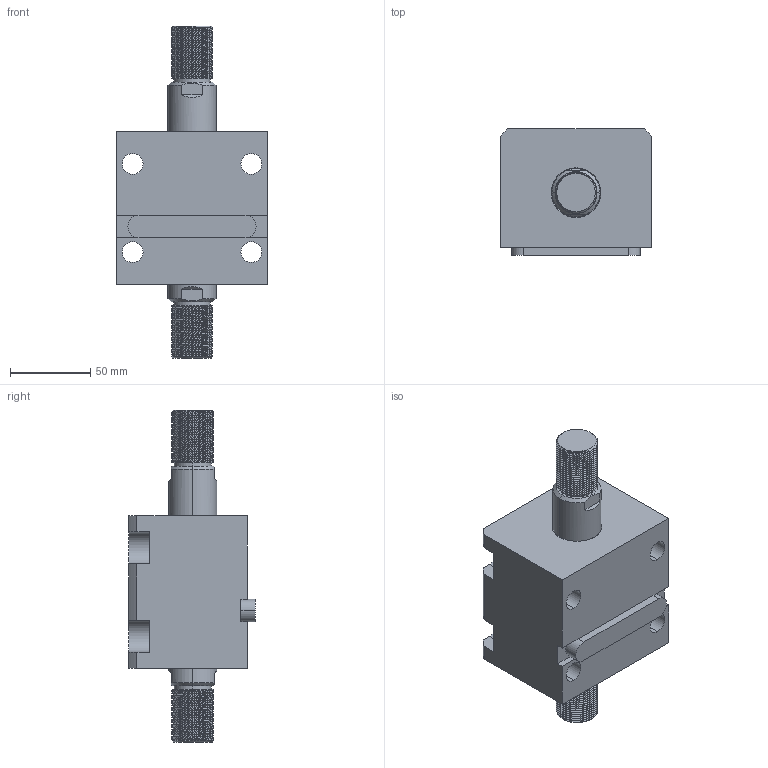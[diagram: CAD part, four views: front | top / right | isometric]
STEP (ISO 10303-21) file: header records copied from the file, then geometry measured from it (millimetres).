
FILE_DESCRIPTION (( 'STEP AP203' ), '1' );
FILE_NAME ('CHTB-LW50-20W.STEP', '2018-05-18T02:28:47', ( '' ), ( '' ), 'SwSTEP 2.0', 'SolidWorks 2015', '' );
FILE_SCHEMA (( 'CONFIG_CONTROL_DESIGN' ));
Length unit declared in the file: millimetre
Products named in the file (4): 掛极LW50-20W; 活塞杆LW50-20W; CHTB-LW50-20W; CHTM-SDMA50QG
Assembly tree (3 placements, depth 2):
  CHTB-LW50-20W
    掛极LW50-20W
    CHTM-SDMA50QG
    活塞杆LW50-20W
Bounding box: 94 x 79 x 207 mm (x, y, z)
Volume: 645257.4 mm3; surface area: 113575.4 mm2
Topology: 3 solids, 3 shells, 311 faces, 855 edges, 568 vertices
Faces by surface type: cylinder 186, plane 64, cone 27, bspline 18, torus 16
Entity records: 19441 total; most frequent: CARTESIAN_POINT 11851, ORIENTED_EDGE 1702, DIRECTION 1316, EDGE_CURVE 851, VERTEX_POINT 568, AXIS2_PLACEMENT_3D 504, EDGE_LOOP 349, ADVANCED_FACE 311
